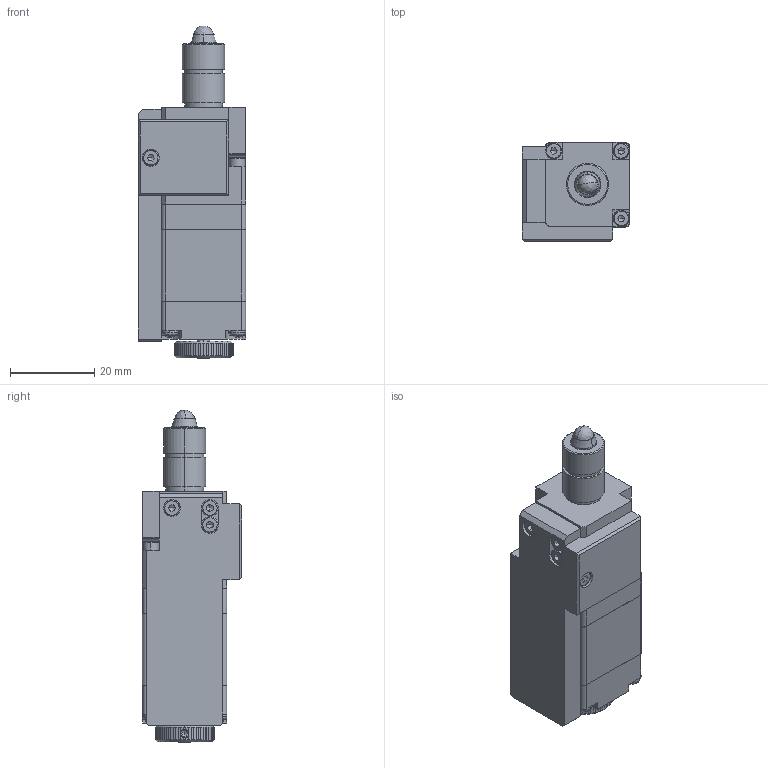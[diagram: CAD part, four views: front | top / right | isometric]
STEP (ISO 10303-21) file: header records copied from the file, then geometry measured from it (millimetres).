
FILE_DESCRIPTION (( 'STEP AP203' ), '1' );
FILE_NAME ('8CMA20-8-15.STEP', '2009-08-13T08:06:30', ( 'Darius' ), ( '' ), 'SwSTEP 2.0', 'SolidWorks 2003240', '' );
FILE_SCHEMA (( 'CONFIG_CONTROL_DESIGN' ));
Length unit declared in the file: millimetre
Products named in the file (1): 8CMA20-8-15
Bounding box: 25.52 x 23.5 x 78.74 mm (x, y, z)
Volume: 28658.3 mm3; surface area: 11075.3 mm2
Topology: 1 solids, 24 shells, 746 faces, 1924 edges, 1222 vertices
Faces by surface type: plane 376, cylinder 163, cone 138, bspline 69
Entity records: 24432 total; most frequent: CARTESIAN_POINT 7162, ORIENTED_EDGE 3742, DIRECTION 3301, EDGE_CURVE 1871, VERTEX_POINT 1222, AXIS2_PLACEMENT_3D 1215, VECTOR 871, LINE 871
